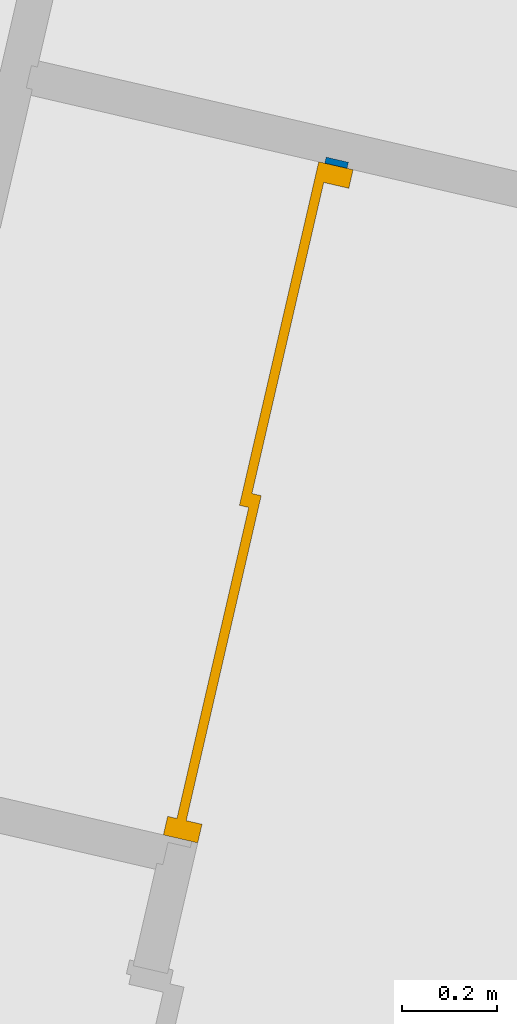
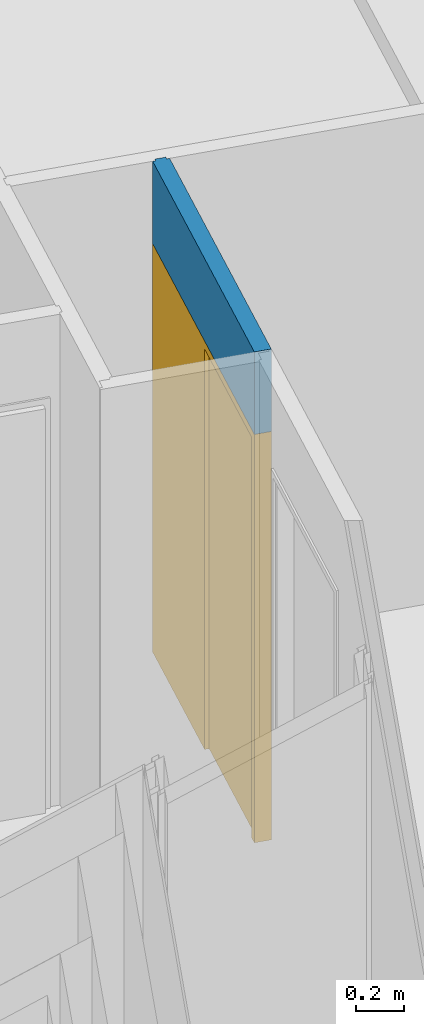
# One storey, part 27 of 90: 1 door, 1 wall, 1 opening.
"""IFC2X3 building model written with IfcOpenShell, lengths in metres."""

import ifcopenshell
import ifcopenshell.guid

model = None  # the IFC model being written
_history = None  # IfcOwnerHistory: only IFC2X3 demands one
_inside = {}  # id of a spatial element -> (the spatial element, [elements in it])
_under = {}  # id of a project, library or spatial element -> (it, [spatial elements below it])
_declared = {}  # id of a project -> (the project, [libraries it declares])
_typed = {}  # id of a type object -> (the type object, [elements of that type])
_made_of = {}  # id of a material, layer set ... -> (it, [elements and type objects made of it])


def new_model(schema):
    """Start an empty IFC model of exactly this schema.

    Asked for "IFC4X3", IfcOpenShell would pick the latest addendum, in which some entities
    have other attributes; the version numbers below select the first issue.
    IFC2X3 requires an IfcOwnerHistory on every rooted entity: one is made here for all.
    """
    global model, _history
    if schema == "IFC4X3":
        model = ifcopenshell.file(schema_version=(4, 3, 0, 0))
    else:
        model = ifcopenshell.file(schema=schema)
    _inside.clear()
    _under.clear()
    _declared.clear()
    _typed.clear()
    _made_of.clear()
    _history = None
    if model.schema == "IFC2X3":
        org = make("IfcOrganization", Name="unknown")
        user = make(
            "IfcPersonAndOrganization",
            ThePerson=make("IfcPerson", FamilyName="unknown"),
            TheOrganization=org,
        )
        app = make(
            "IfcApplication",
            ApplicationDeveloper=org,
            Version="unknown",
            ApplicationFullName="unknown",
            ApplicationIdentifier="unknown",
        )
        _history = make(
            "IfcOwnerHistory",
            OwningUser=user,
            OwningApplication=app,
            ChangeAction="ADDED",
            CreationDate=0,
        )
    return model


def make(cls, **values):
    """One entity of the class cls with the attributes given. An attribute that is None is left unset."""
    return model.create_entity(
        cls, **{name: value for name, value in values.items() if value is not None}
    )


def entity(cls, *values):
    """Any entity or typed value of the class cls, its attributes in the order of the schema. None: left unset."""
    e = model.create_entity(cls)
    for i, value in enumerate(values):
        if value is not None:
            e[i] = value
    return e


def rooted(cls, **values):
    """An entity with a GlobalId (a new one), such as an element, a storey or a relation."""
    return make(cls, GlobalId=ifcopenshell.guid.new(), OwnerHistory=_history, **values)


def si_unit(unit_type, name, prefix=None):
    """IfcSIUnit, for example si_unit("LENGTHUNIT", "METRE", prefix="MILLI")."""
    return make("IfcSIUnit", UnitType=unit_type, Prefix=prefix, Name=name)


def converted_unit(unit_type, name, factor, base, dimensions=None, offset=None):
    """IfcConversionBasedUnit, such as the inch: factor (a typed value) times the base unit."""
    return make(
        "IfcConversionBasedUnit"
        if offset is None
        else "IfcConversionBasedUnitWithOffset",
        ConversionOffset=offset,
        Dimensions=None
        if dimensions is None
        else entity("IfcDimensionalExponents", *dimensions),
        UnitType=unit_type,
        Name=name,
        ConversionFactor=make(
            "IfcMeasureWithUnit", ValueComponent=factor, UnitComponent=base
        ),
    )


def derived_unit(unit_type, elements):
    """IfcDerivedUnit: a product of units, each with its exponent."""
    return make(
        "IfcDerivedUnit",
        Elements=[
            make("IfcDerivedUnitElement", Unit=unit, Exponent=power)
            for unit, power in elements
        ],
        UnitType=unit_type,
    )


def money_unit(currency):
    """IfcMonetaryUnit."""
    return make("IfcMonetaryUnit", Currency=currency)


def assignment(units):
    """IfcUnitAssignment: the units of a project."""
    return None if units is None else make("IfcUnitAssignment", Units=units)


def point(xyz):
    """IfcCartesianPoint."""
    return None if xyz is None else make("IfcCartesianPoint", Coordinates=xyz)


def direction(xyz):
    """IfcDirection."""
    return None if xyz is None else make("IfcDirection", DirectionRatios=xyz)


def frame(location, z_axis=None, x_axis=None):
    """IfcAxis2Placement3D, a coordinate frame: its origin and axes. An axis left out is left unset."""
    return make(
        "IfcAxis2Placement3D",
        Location=point(location),
        Axis=direction(z_axis),
        RefDirection=direction(x_axis),
    )


def origin_with_axes():
    """The frame at (0, 0, 0) with the z axis (0, 0, 1) and the x axis (1, 0, 0) written out."""
    return frame((0.0, 0.0, 0.0), z_axis=(0.0, 0.0, 1.0), x_axis=(1.0, 0.0, 0.0))


def place(relative_to, where):
    """IfcLocalPlacement: puts the frame where relative to a parent placement (None: the world)."""
    return make(
        "IfcLocalPlacement", PlacementRelTo=relative_to, RelativePlacement=where
    )


def context(
    kind, dimensions, precision=None, world=None, true_north=None, identifier=None
):
    """IfcGeometricRepresentationContext, for example the 3D "Model" context."""
    return make(
        "IfcGeometricRepresentationContext",
        ContextIdentifier=identifier,
        ContextType=kind,
        CoordinateSpaceDimension=dimensions,
        Precision=precision,
        WorldCoordinateSystem=world,
        TrueNorth=true_north,
    )


def subcontext(parent, identifier, kind, view, scale=None):
    """IfcGeometricRepresentationSubContext, for example "Body" below "Model"."""
    return make(
        "IfcGeometricRepresentationSubContext",
        ContextIdentifier=identifier,
        ContextType=kind,
        ParentContext=parent,
        TargetScale=scale,
        TargetView=view,
    )


def project(units=None, contexts=None):
    """IfcProject with its units and contexts."""
    return rooted(
        "IfcProject",
        Name="project",
        RepresentationContexts=contexts,
        UnitsInContext=assignment(units),
    )


def spatial(cls, under=None, at=None, **own):
    """A site, building, storey or space (cls), placed at a placement, below another one or the project."""
    s = rooted(cls, ObjectPlacement=at, **own)
    if under is not None:
        _under.setdefault(under.id(), (under, []))[1].append(s)
    return s


def faces_of(points, faces, orient=None, outer=None):
    """IfcFace entities. A face is a list of loops; a loop is a list of indices into points, from 0.

    orient and outer hold one flag for each loop. By default every Orientation is true, the
    first loop of a face is its IfcFaceOuterBound and the others are IfcFaceBound.
    """
    made = []
    for i, loops in enumerate(faces):
        bounds = []
        for j, loop in enumerate(loops):
            is_outer = j == 0 if outer is None else outer[i][j]
            bounds.append(
                make(
                    "IfcFaceOuterBound" if is_outer else "IfcFaceBound",
                    Bound=make("IfcPolyLoop", Polygon=[points[k] for k in loop]),
                    Orientation=True if orient is None else orient[i][j],
                )
            )
        made.append(make("IfcFace", Bounds=bounds))
    return made


def faceted_brep(points, faces, orient=None, outer=None, voids=None):
    """IfcFacetedBrep: a solid bounded by flat faces; with voids (closed shells), ...WithVoids."""
    shared = [point(p) for p in points]
    hull = make("IfcClosedShell", CfsFaces=faces_of(shared, faces, orient, outer))
    if voids is None:
        return make("IfcFacetedBrep", Outer=hull)
    return make(
        "IfcFacetedBrepWithVoids",
        Outer=hull,
        Voids=[
            make(cls, CfsFaces=faces_of(shared, fs, o, b)) for cls, fs, o, b in voids
        ],
    )


def shape(context_of_items, identifier, shape_type, items):
    """IfcShapeRepresentation: the items that make up one representation, for example the "Body"."""
    return make(
        "IfcShapeRepresentation",
        ContextOfItems=context_of_items,
        RepresentationIdentifier=identifier,
        RepresentationType=shape_type,
        Items=items,
    )


def source(mapping_origin, context_of_items, identifier, shape_type, items):
    """IfcRepresentationMap: a shape defined once, which mapped items show again and again."""
    return make(
        "IfcRepresentationMap",
        MappingOrigin=mapping_origin,
        MappedRepresentation=shape(context_of_items, identifier, shape_type, items),
    )


def transform(
    local_origin,
    x_axis=None,
    y_axis=None,
    z_axis=None,
    scale=None,
    scale2=None,
    scale3=None,
    uniform=True,
):
    """IfcCartesianTransformationOperator3D, or its non-uniform kind. x_axis, y_axis, z_axis: its Axis1, 2, 3."""
    if uniform:
        return make(
            "IfcCartesianTransformationOperator3D",
            Axis1=direction(x_axis),
            Axis2=direction(y_axis),
            LocalOrigin=point(local_origin),
            Scale=scale,
            Axis3=direction(z_axis),
        )
    return make(
        "IfcCartesianTransformationOperator3DnonUniform",
        Axis1=direction(x_axis),
        Axis2=direction(y_axis),
        LocalOrigin=point(local_origin),
        Scale=scale,
        Axis3=direction(z_axis),
        Scale2=scale2,
        Scale3=scale3,
    )


def mapped(mapping_source, mapping_target):
    """IfcMappedItem: shows the shape of a source again, moved by a transform."""
    return make(
        "IfcMappedItem", MappingSource=mapping_source, MappingTarget=mapping_target
    )


def material(Name=None, Category=None):
    """IfcMaterial."""
    return make("IfcMaterial", Name=Name, Category=Category)


def material_list(materials):
    """IfcMaterialList."""
    return make("IfcMaterialList", Materials=materials)


def made_of(thing, what):
    """Note that an element or type object is made of a material, layer set ...; save() writes the relation."""
    if what is not None:
        _made_of.setdefault(what.id(), (what, []))[1].append(thing)
    return thing


def type_object(cls, material=None, **own):
    """A type object (cls), such as IfcWallType, which elements share."""
    return made_of(rooted(cls, **own), material)


def element(
    cls,
    number,
    at=None,
    inside=None,
    cuts=None,
    type_object=None,
    material=None,
    context=None,
    identifier="Body",
    shape_type=None,
    held_by="IfcProductDefinitionShape",
    body=None,
    shapes=None,
    **own,
):
    """One element of the class cls, such as IfcWall. Its Tag is "e" and its number.

    at: its placement. inside: the storey or other place that contains it. cuts: it is an
    opening in that element (IfcRelVoidsElement). A single representation is given by context,
    identifier, shape_type and body (its items); several are given by shapes. held_by: the class
    of the entity that holds the representations. save() writes the other relations.
    """
    e = rooted(cls, Tag="e%d" % number, ObjectPlacement=at, **own)
    if body is not None:
        shapes = [shape(context, identifier, shape_type, body)]
    if shapes is not None:
        e.Representation = make(held_by, Representations=shapes)
    if inside is not None:
        _inside.setdefault(inside.id(), (inside, []))[1].append(e)
    if cuts is not None:
        rooted(
            "IfcRelVoidsElement", RelatingBuildingElement=cuts, RelatedOpeningElement=e
        )
    if type_object is not None:
        _typed.setdefault(type_object.id(), (type_object, []))[1].append(e)
    return made_of(e, material)


def fill(opening, filler):
    """IfcRelFillsElement: the door or window that sits in an opening."""
    return rooted(
        "IfcRelFillsElement",
        RelatingOpeningElement=opening,
        RelatedBuildingElement=filler,
    )


def aggregate(whole, parts):
    """IfcRelAggregates: a whole, such as a stair, and the parts it consists of."""
    return rooted("IfcRelAggregates", RelatingObject=whole, RelatedObjects=parts)


def save(model, path):
    """Write the relations noted so far, then the file.

    IfcRelAggregates (storeys below a building ...), IfcRelContainedInSpatialStructure (elements
    in a storey), IfcRelDefinesByType, IfcRelAssociatesMaterial and IfcRelDeclares: one each for
    every whole, place, type object, material and project.
    """
    for whole, parts in _under.values():
        aggregate(whole, parts)
    for where, things in _inside.values():
        rooted(
            "IfcRelContainedInSpatialStructure",
            RelatedElements=things,
            RelatingStructure=where,
        )
    for kind, things in _typed.values():
        rooted("IfcRelDefinesByType", RelatedObjects=things, RelatingType=kind)
    for what, things in _made_of.values():
        rooted("IfcRelAssociatesMaterial", RelatedObjects=things, RelatingMaterial=what)
    for by, libraries in _declared.values():
        rooted("IfcRelDeclares", RelatingContext=by, RelatedDefinitions=libraries)
    model.write(path)


model = new_model("IFC2X3")

# Units and contexts
model_context = context("Model", 3, precision=1e-05, world=origin_with_axes(), true_north=direction((0.0, 1.0)))
body_context = subcontext(model_context, "Body", "Model", "MODEL_VIEW")
ifc_project = project(units=[si_unit("LENGTHUNIT", "METRE"), si_unit("AREAUNIT", "SQUARE_METRE"), si_unit("VOLUMEUNIT", "CUBIC_METRE"), converted_unit("PLANEANGLEUNIT", "DEGREE", entity("IfcPlaneAngleMeasure", 0.0174532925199), si_unit("PLANEANGLEUNIT", "RADIAN"), dimensions=[0, 0, 0, 0, 0, 0, 0]), si_unit("SOLIDANGLEUNIT", "STERADIAN"), money_unit("EUR"), converted_unit("TIMEUNIT", "Year", entity("IfcTimeMeasure", 31556926.0), si_unit("TIMEUNIT", "SECOND"), dimensions=[0, 0, 1, 0, 0, 0, 0]), si_unit("MASSUNIT", "GRAM", prefix="KILO"), si_unit("THERMODYNAMICTEMPERATUREUNIT", "DEGREE_CELSIUS"), si_unit("LUMINOUSINTENSITYUNIT", "LUMEN"), si_unit("ENERGYUNIT", "JOULE", prefix="MEGA"), derived_unit("THERMALCONDUCTANCEUNIT", [(si_unit("POWERUNIT", "WATT"), 1), (si_unit("LENGTHUNIT", "METRE"), -1), (si_unit("THERMODYNAMICTEMPERATUREUNIT", "KELVIN"), -1)]), derived_unit("SPECIFICHEATCAPACITYUNIT", [(si_unit("ENERGYUNIT", "JOULE"), 1), (si_unit("MASSUNIT", "GRAM", prefix="KILO"), -1), (si_unit("THERMODYNAMICTEMPERATUREUNIT", "KELVIN"), -1)]), derived_unit("MASSDENSITYUNIT", [(si_unit("MASSUNIT", "GRAM", prefix="KILO"), 1), (si_unit("VOLUMEUNIT", "CUBIC_METRE"), -1)])], contexts=[model_context])

# Site, building, storey
site_placement = place(None, origin_with_axes())
site = spatial("IfcSite", under=ifc_project, at=site_placement, Name="Site", CompositionType="ELEMENT")
building_placement = place(site_placement, origin_with_axes())
building = spatial("IfcBuilding", under=site, at=building_placement, Name="Bâtiment", CompositionType="ELEMENT")
storey_placement = place(building_placement, frame((0.0, 0.0, 2.72), z_axis=(0.0, 0.0, 1.0), x_axis=(1.0, 0.0, 0.0)))
storey = spatial("IfcBuildingStorey", under=building, at=storey_placement, Name="R+1", CompositionType="ELEMENT", Elevation=2.72)

# Wall, opening, door
ifc_material_1 = material(Name="Finition int - Plaque de plâtre")
ifc_material_2 = material(Name="Isolation - Laine de roche")
ifc_material_list = material_list([ifc_material_1, ifc_material_2, ifc_material_1])
wall_type = type_object("IfcWallType", Name="3 - Cloison 72mm Placostil 74", PredefinedType="USERDEFINED")
wall_placement = place(storey_placement, frame((-5.6459122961, -3.28776935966, 0.0), z_axis=(0.0, 0.0, 1.0), x_axis=(0.224876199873, 0.974387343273, 0.0)))
wall = element("IfcWall", 1, at=wall_placement, inside=storey, type_object=wall_type, material=ifc_material_list, Name="Cloison Placostil 72/48", ObjectType="PARTITIONING", context=body_context, shape_type="Brep", body=[
    faceted_brep([(0.0, 0.061, 2.08), (1.45000000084, 0.061, 2.08), (1.45000000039, 0.061, 2.5), (0.0, 0.061, 2.5), (1.45000000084, 0.074, 2.08), (0.0, 0.074, 2.08), (1.4500000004, 0.074, 2.5), (0.0, 0.074, 2.5)], [[[0, 1, 2, 3]], [[4, 1, 0, 5]], [[1, 4, 6, 2]], [[6, 7, 3, 2]], [[5, 0, 3, 7]], [[4, 5, 7, 6]]]),
    faceted_brep([(1.45000000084, 0.013, 2.08), (1.45000000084, 0.013, 0.0), (1.46300000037, 0.013, 0.0), (1.46300000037, 0.013, 2.5), (0.0, 0.013, 2.5), (0.0, 0.013, 2.08), (1.45000000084, 0.061, 2.08), (1.45000000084, 0.061, 0.0), (1.46300000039, 0.061, 0.0), (1.46300000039, 0.061, 2.5), (0.0, 0.061, 2.5), (0.0, 0.061, 2.08)], [[[0, 1, 2, 3, 4, 5]], [[1, 0, 6, 7]], [[1, 7, 8, 2]], [[8, 9, 3, 2]], [[9, 10, 4, 3]], [[11, 5, 4, 10]], [[0, 5, 11, 6]], [[6, 11, 10, 9, 8, 7]]]),
    faceted_brep([(0.0, 0.0, 2.08), (1.45000000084, 0.0, 2.08), (1.45000000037, 0.0, 2.5), (0.0, 0.0, 2.5), (1.45000000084, 0.013, 2.08), (0.0, 0.013, 2.08), (1.45000000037, 0.013, 2.5), (0.0, 0.013, 2.5)], [[[0, 1, 2, 3]], [[4, 1, 0, 5]], [[1, 4, 6, 2]], [[6, 7, 3, 2]], [[5, 0, 3, 7]], [[4, 5, 7, 6]]]),
])
opening_placement = place(wall_placement, frame((0.72500000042, 0.0, 0.0), z_axis=(0.0, 0.0, 1.0), x_axis=(1.0, 0.0, 0.0)))
opening = element("IfcOpeningElement", 2, at=opening_placement, cuts=wall, Name="Por-002", context=body_context, shape_type="Brep", body=[
    faceted_brep([(0.72500000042, -0.074, 0.0), (-0.72500000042, -0.074, 0.0), (-0.72500000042, 0.074, 0.0), (0.72500000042, 0.074, 0.0), (0.72500000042, -0.074, 2.08), (-0.72500000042, -0.074, 2.08), (-0.72500000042, 0.074, 2.08), (0.72500000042, 0.074, 2.08)], [[[0, 1, 2, 3]], [[0, 4, 5, 1]], [[1, 5, 6, 2]], [[3, 2, 6, 7]], [[4, 0, 3, 7]], [[5, 4, 7, 6]]]),
])
door_style = type_object("IfcDoorStyle", Name="Porte int générique 2019", ConstructionType="NOTDEFINED", OperationType="USERDEFINED", ParameterTakesPrecedence=False, Sizeable=False)
shared_shape = source(origin_with_axes(), body_context, "Body", "Brep", [
    faceted_brep([(0.72500000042, -0.006, 0.0), (0.68500000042, -0.006, 0.0), (0.68500000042, -0.006, 2.04), (-0.68500000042, -0.006, 2.04), (-0.68500000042, -0.006, 0.0), (-0.72500000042, -0.006, 0.0), (-0.72500000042, -0.006, 2.08), (0.72500000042, -0.006, 2.08), (0.72500000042, -0.08, 0.0), (0.68500000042, -0.08, 0.0), (0.68500000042, -0.08, 2.04), (-0.68500000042, -0.08, 2.04), (-0.68500000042, -0.08, 0.0), (-0.72500000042, -0.08, 0.0), (-0.72500000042, -0.08, 2.08), (0.72500000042, -0.08, 2.08)], [[[0, 1, 2, 3, 4, 5, 6, 7]], [[0, 8, 9, 1]], [[1, 9, 10, 2]], [[2, 10, 11, 3]], [[3, 11, 12, 4]], [[5, 4, 12, 13]], [[14, 6, 5, 13]], [[15, 7, 6, 14]], [[8, 0, 7, 15]], [[9, 8, 15, 14, 13, 12, 11, 10]]]),
    faceted_brep([(0.68500000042, -0.006, 0.0), (0.68500000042, -0.026, 0.0), (-0.015, -0.026, 0.0), (-0.015, -0.006, 0.0), (0.68500000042, -0.006, 2.04), (0.68500000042, -0.026, 2.04), (-0.015, -0.026, 2.04), (-0.015, -0.006, 2.04)], [[[0, 1, 2, 3]], [[4, 5, 1, 0]], [[1, 5, 6, 2]], [[3, 2, 6, 7]], [[0, 3, 7, 4]], [[7, 6, 5, 4]]]),
    faceted_brep([(0.015, -0.026, 0.0), (0.015, -0.046, 0.0), (-0.68500000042, -0.046, 0.0), (-0.68500000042, -0.026, 0.0), (0.015, -0.026, 2.04), (0.015, -0.046, 2.04), (-0.68500000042, -0.046, 2.04), (-0.68500000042, -0.026, 2.04)], [[[0, 1, 2, 3]], [[4, 5, 1, 0]], [[1, 5, 6, 2]], [[3, 2, 6, 7]], [[0, 3, 7, 4]], [[7, 6, 5, 4]]]),
])
door_placement = place(opening_placement, frame((-0.68500000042, 0.0, 0.0), z_axis=(0.0, 0.0, 1.0), x_axis=(1.0, 0.0, 0.0)))
door = element("IfcDoor", 3, at=door_placement, inside=storey, type_object=door_style, Name="Por-002", ObjectType="DOOR", OverallHeight=2.04, OverallWidth=1.37, context=body_context, shape_type="MappedRepresentation", body=[
    mapped(shared_shape, transform((0.68500000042, 0.08, 0.0))),
])
fill(opening, door)

save(model, "model.ifc")
